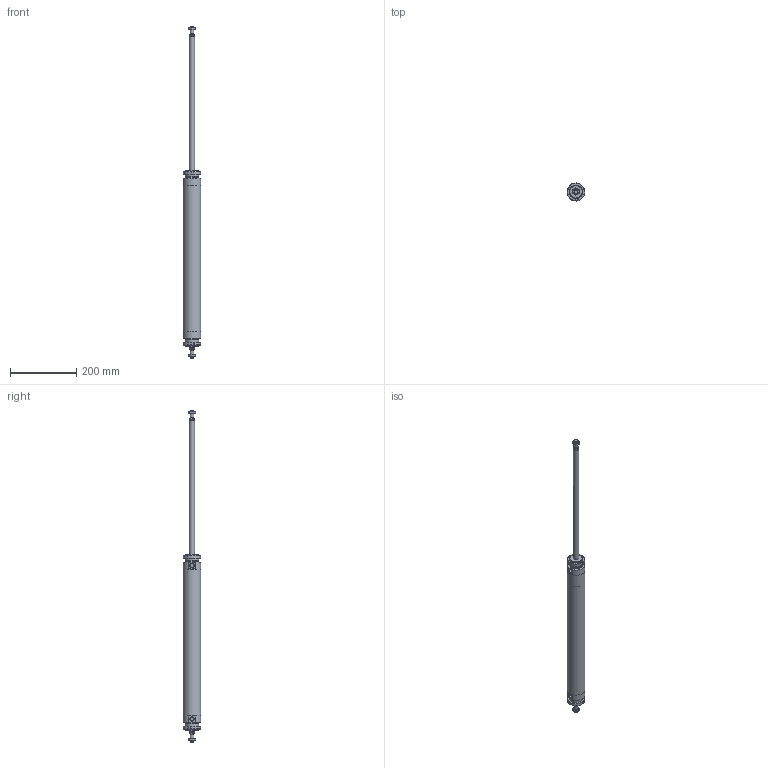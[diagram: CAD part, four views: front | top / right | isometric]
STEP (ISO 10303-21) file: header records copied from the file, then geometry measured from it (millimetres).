
FILE_DESCRIPTION(/* description */ (''),/* implementation_level */ '2;1');
FILE_NAME(/* name */ 'I:\Area Tecnica\Documenti\A-Manieri\_Inventor\12X\12X#S_###_####_#_#\12XCS_050_0400_#_#.stp',/* time_stamp */ '2015-05-08T14:19:33+02:00',/* author */ ('maniean1'),/* organization */ ('Pneumax S.p.A.'),/* preprocessor_version */ 'ST-DEVELOPER v15.2',/* originating_system */ 'Autodesk Inventor 2014',/* authorisation */ '');
FILE_SCHEMA (('AUTOMOTIVE_DESIGN { 1 0 10303 214 3 1 1 }'));
Length unit declared in the file: millimetre
Products named in the file (6): C1250_619-0400; 12X50_604; SP12X50_0400; 12X_50_11; G12X_050_05; 12XCS_050_0400_#_#
Bounding box: 54 x 54 x 1002 mm (x, y, z)
Volume: 569881 mm3; surface area: 239945.3 mm2
Topology: 8 solids, 8 shells, 133 faces, 303 edges, 194 vertices
Faces by surface type: plane 66, cone 34, cylinder 33
Full cylindrical faces by diameter (mm): 10.2 x2, 11.4 x2, 12 x4, 14 x2, 15.6 x2, 16 x2, 38.2 x2, 40 x6, 50 x2, 54 x3
Entity records: 2300 total; most frequent: CARTESIAN_POINT 435, DIRECTION 388, ORIENTED_EDGE 310, AXIS2_PLACEMENT_3D 166, EDGE_CURVE 155, EDGE_LOOP 130, VERTEX_POINT 117, ADVANCED_FACE 85
